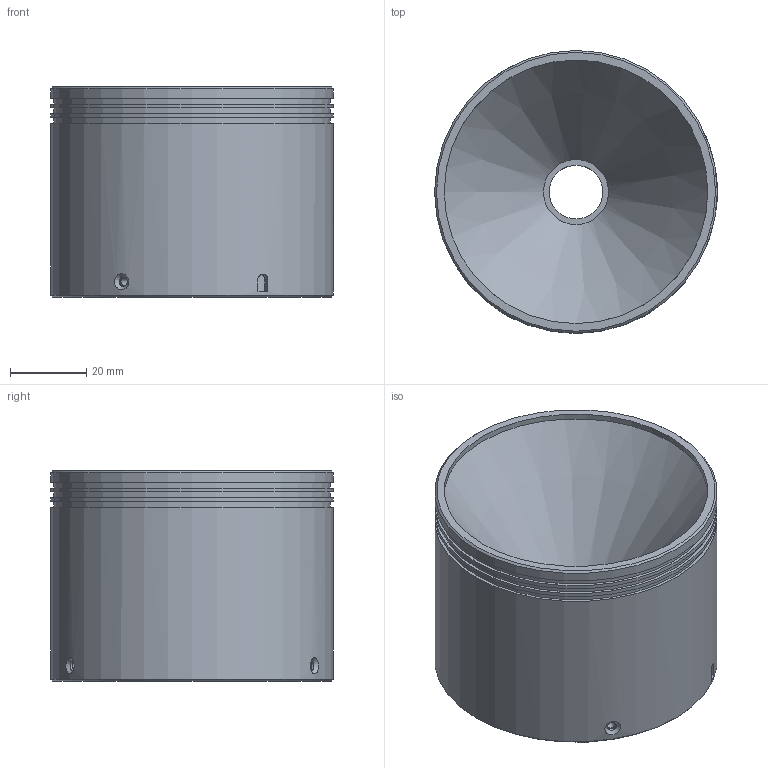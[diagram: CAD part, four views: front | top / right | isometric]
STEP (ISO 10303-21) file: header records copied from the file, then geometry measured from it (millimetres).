
FILE_DESCRIPTION((''),'2;1');
FILE_NAME('D:\上海创波-20181114\2-三维图纸\1-常用光源\WLFD系列\WLFD2-70-.stp','2020-02-05T09:47:09',('Administrator'),(''),'Autodesk Inventor 2010','Autodesk Inventor 2010','');
FILE_SCHEMA(('AUTOMOTIVE_DESIGN { 1 0 10303 214 1 1 1 1 }'));
Length unit declared in the file: millimetre
Products named in the file (1): 零件17
Bounding box: 74 x 74 x 55 mm (x, y, z)
Volume: 157258.4 mm3; surface area: 54088.1 mm2
Topology: 1 solids, 2 shells, 62 faces, 126 edges, 86 vertices
Faces by surface type: cylinder 30, plane 25, cone 4, bspline 3
Full cylindrical faces by diameter (mm): 2 x3, 2.5 x3, 3 x4, 14 x1, 17 x1, 69 x1, 70.5 x1, 71 x1, 72.5 x3, 74 x4
Entity records: 1915 total; most frequent: CARTESIAN_POINT 665, DIRECTION 236, ORIENTED_EDGE 178, EDGE_LOOP 111, AXIS2_PLACEMENT_3D 109, EDGE_CURVE 89, VERTEX_POINT 75, STYLED_ITEM 63
